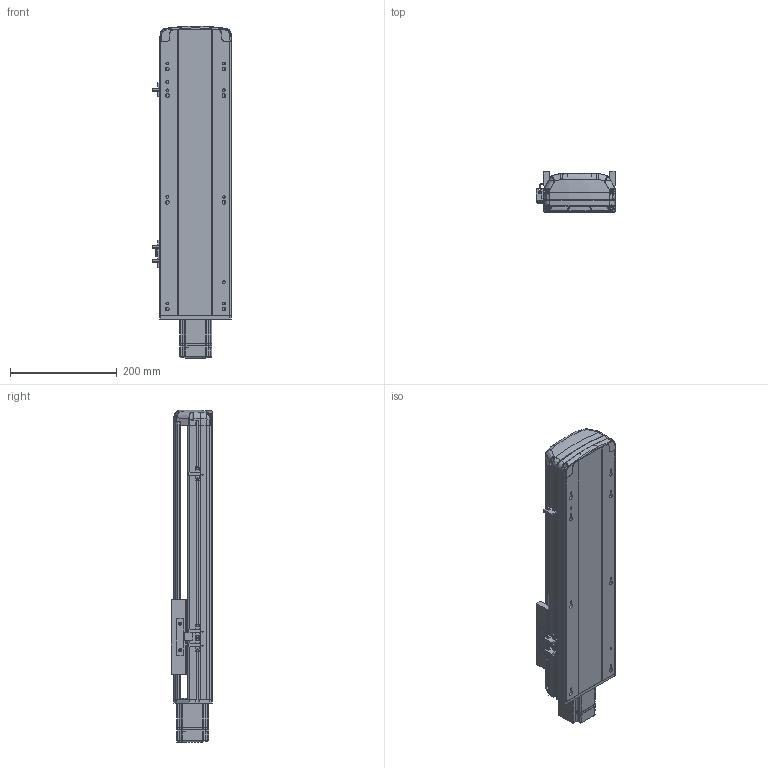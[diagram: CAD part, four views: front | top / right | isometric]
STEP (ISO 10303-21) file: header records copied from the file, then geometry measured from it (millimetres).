
FILE_DESCRIPTION (( 'STEP AP214' ), '1' );
FILE_NAME ('RTH14-XX-300-E-M20-C4.STEP', '2025-10-24T09:06:18', ( 'Microsoft' ), ( 'Microsoft' ), 'SwSTEP 2.0', 'SolidWorks 2018', '' );
FILE_SCHEMA (( 'AUTOMOTIVE_DESIGN' ));
Length unit declared in the file: millimetre
Products named in the file (9): N_RTH14-R-004-SFSR16賑釱^RTH14-XX-XX-E-M20-C4; N_RTH13-L-012感应片（外置）^RTH14-XX-XX-E-M20-C4; N_RTH13-E-008萇儂耜猾裔^RTH14-XX-XX-E-M20-C4; RTH14-XX-300-E-M20-C4; N_RTH14-E-011P菁釱^RTH14-XX-XX-E-M20-C4; N_MSMD022P1AA_200W^RTH14-XX-XX-E-M20-C4; N_OMRON EE-SX672 传感器^RTH14-XX-XX-E-M20-C4; N_RTH14-GY-001P^RTH14-XX-XX-E-M20-C4; N_RTH14-E-007P奻裔^RTH14-XX-XX-E-M20-C4
Assembly tree (10 placements, depth 2):
  RTH14-XX-300-E-M20-C4
    N_RTH14-E-011P菁釱^RTH14-XX-XX-E-M20-C4
    N_RTH14-E-007P奻裔^RTH14-XX-XX-E-M20-C4
    N_MSMD022P1AA_200W^RTH14-XX-XX-E-M20-C4
    N_RTH13-L-012感应片（外置）^RTH14-XX-XX-E-M20-C4
    N_OMRON EE-SX672 传感器^RTH14-XX-XX-E-M20-C4  x3
    N_RTH13-E-008萇儂耜猾裔^RTH14-XX-XX-E-M20-C4
    N_RTH14-R-004-SFSR16賑釱^RTH14-XX-XX-E-M20-C4
    N_RTH14-GY-001P^RTH14-XX-XX-E-M20-C4
Bounding box: 148.5 x 78.03 x 622.49 mm (x, y, z)
Volume: 2732975.9 mm3; surface area: 600502.8 mm2
Topology: 10 solids, 10 shells, 1853 faces, 5212 edges, 3424 vertices
Faces by surface type: plane 975, cylinder 488, bspline 341, cone 45, torus 4
Entity records: 56642 total; most frequent: CARTESIAN_POINT 22718, ORIENTED_EDGE 7492, DIRECTION 6017, EDGE_CURVE 3746, VERTEX_POINT 2460, VECTOR 2153, LINE 2153, AXIS2_PLACEMENT_3D 1932
